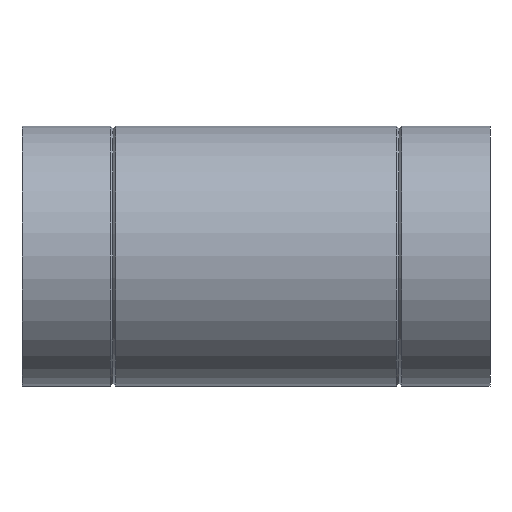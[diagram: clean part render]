
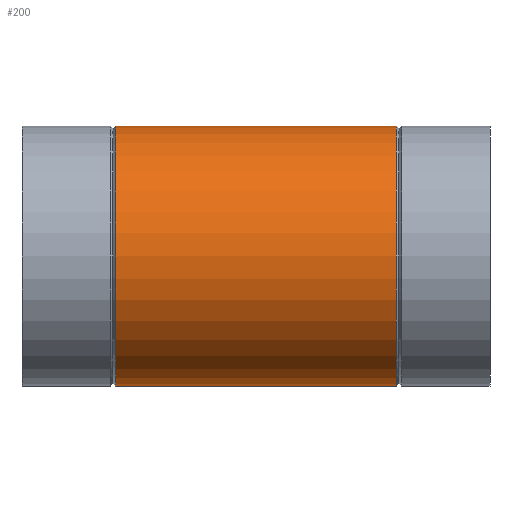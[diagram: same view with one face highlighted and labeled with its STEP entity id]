
A CAD part, left-side view. The second image highlights one B-rep face of the part: STEP entity #200.
In plain terms, the highlighted cylindrical face has radius 100 mm (diameter 200 mm), a full revolution.
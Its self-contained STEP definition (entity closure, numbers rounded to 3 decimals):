
#15=B_SPLINE_CURVE_WITH_KNOTS($,3,(#325,#326,#327,#328,#329,#330,#331,#332,
#333,#334,#335,#336,#337,#338,#339,#340,#341,#342,#343,#344,#345,#346,#347,
#348,#349,#350,#351,#352,#353,#354,#355,#356,#357,#358,#359,#360,#361,#362,
#363,#364,#365,#366,#367,#368,#369,#370,#371,#372,#373,#374,#375,#376,#377,
#378,#379,#380,#381,#382,#383,#384,#385,#386,#387,#388,#389,#390),
 .UNSPECIFIED.,.T.,.F.,(4,2,2,2,2,2,2,2,2,2,2,2,2,2,2,2,2,2,2,2,2,2,2,2,
2,2,2,2,2,2,2,2,4),(0.,1.072,2.143,3.215,
4.286,5.347,6.407,7.468,8.528,
9.589,10.649,11.71,12.77,13.842,
14.913,15.985,17.056,18.115,19.174,
20.232,21.291,22.35,23.41,24.47,
25.529,26.589,27.649,28.708,29.768,
30.827,31.885,32.944,34.002),
 .UNSPECIFIED.);
#17=CYLINDRICAL_SURFACE($,#222,100.);
#26=FACE_BOUND($,#63,.T.);
#27=FACE_BOUND($,#64,.T.);
#48=FACE_OUTER_BOUND($,#62,.T.);
#62=EDGE_LOOP($,(#145));
#63=EDGE_LOOP($,(#146));
#64=EDGE_LOOP($,(#147));
#94=CIRCLE($,#221,100.);
#95=CIRCLE($,#223,100.);
#109=VERTEX_POINT($,#319);
#110=VERTEX_POINT($,#322);
#111=VERTEX_POINT($,#324);
#126=EDGE_CURVE($,#109,#109,#94,.T.);
#127=EDGE_CURVE($,#110,#110,#95,.T.);
#128=EDGE_CURVE($,#111,#111,#15,.T.);
#145=ORIENTED_EDGE($,*,*,#127,.T.);
#146=ORIENTED_EDGE($,*,*,#128,.T.);
#147=ORIENTED_EDGE($,*,*,#126,.T.);
#200=ADVANCED_FACE($,(#48,#26,#27),#17,.T.);
#221=AXIS2_PLACEMENT_3D($,#320,#258,#259);
#222=AXIS2_PLACEMENT_3D($,#321,#260,#261);
#223=AXIS2_PLACEMENT_3D($,#323,#262,#263);
#258=DIRECTION('center_axis',(0.,-1.,0.));
#259=DIRECTION('ref_axis',(1.,0.,0.));
#260=DIRECTION('center_axis',(0.,1.,0.));
#261=DIRECTION('ref_axis',(1.,0.,0.));
#262=DIRECTION('center_axis',(0.,1.,0.));
#263=DIRECTION('ref_axis',(1.,0.,0.));
#319=CARTESIAN_POINT('',(100.,288.,0.));
#320=CARTESIAN_POINT('Origin',(0.,288.,0.));
#321=CARTESIAN_POINT('Origin',(0.,0.,0.));
#322=CARTESIAN_POINT('',(-100.,72.,0.));
#323=CARTESIAN_POINT('Origin',(0.,72.,0.));
#324=CARTESIAN_POINT('',(83.516,182.187,55.));
#325=CARTESIAN_POINT('Ctrl Pts',(83.516,182.187,55.));
#326=CARTESIAN_POINT('Ctrl Pts',(83.516,185.759,55.));
#327=CARTESIAN_POINT('Ctrl Pts',(83.752,189.416,54.647));
#328=CARTESIAN_POINT('Ctrl Pts',(84.676,196.634,53.205));
#329=CARTESIAN_POINT('Ctrl Pts',(85.362,200.195,52.116));
#330=CARTESIAN_POINT('Ctrl Pts',(87.031,206.986,49.278));
#331=CARTESIAN_POINT('Ctrl Pts',(88.013,210.224,47.527));
#332=CARTESIAN_POINT('Ctrl Pts',(90.067,216.205,43.509));
#333=CARTESIAN_POINT('Ctrl Pts',(91.137,218.947,41.241));
#334=CARTESIAN_POINT('Ctrl Pts',(93.159,223.785,36.443));
#335=CARTESIAN_POINT('Ctrl Pts',(94.187,226.061,33.742));
#336=CARTESIAN_POINT('Ctrl Pts',(96.1,230.106,27.83));
#337=CARTESIAN_POINT('Ctrl Pts',(96.984,231.875,24.619));
#338=CARTESIAN_POINT('Ctrl Pts',(98.45,234.739,17.875));
#339=CARTESIAN_POINT('Ctrl Pts',(99.033,235.836,14.335));
#340=CARTESIAN_POINT('Ctrl Pts',(99.808,237.286,7.165));
#341=CARTESIAN_POINT('Ctrl Pts',(100.,237.637,3.535));
#342=CARTESIAN_POINT('Ctrl Pts',(100.,237.637,-3.535));
#343=CARTESIAN_POINT('Ctrl Pts',(99.808,237.286,-7.165));
#344=CARTESIAN_POINT('Ctrl Pts',(99.033,235.836,-14.335));
#345=CARTESIAN_POINT('Ctrl Pts',(98.45,234.739,-17.875));
#346=CARTESIAN_POINT('Ctrl Pts',(96.984,231.875,-24.619));
#347=CARTESIAN_POINT('Ctrl Pts',(96.1,230.106,-27.83));
#348=CARTESIAN_POINT('Ctrl Pts',(94.187,226.061,-33.742));
#349=CARTESIAN_POINT('Ctrl Pts',(93.159,223.785,-36.443));
#350=CARTESIAN_POINT('Ctrl Pts',(91.137,218.947,-41.241));
#351=CARTESIAN_POINT('Ctrl Pts',(90.067,216.205,-43.509));
#352=CARTESIAN_POINT('Ctrl Pts',(88.013,210.224,-47.527));
#353=CARTESIAN_POINT('Ctrl Pts',(87.031,206.986,-49.278));
#354=CARTESIAN_POINT('Ctrl Pts',(85.362,200.195,-52.116));
#355=CARTESIAN_POINT('Ctrl Pts',(84.676,196.634,-53.205));
#356=CARTESIAN_POINT('Ctrl Pts',(83.752,189.416,-54.647));
#357=CARTESIAN_POINT('Ctrl Pts',(83.516,185.759,-55.));
#358=CARTESIAN_POINT('Ctrl Pts',(83.516,178.658,-55.));
#359=CARTESIAN_POINT('Ctrl Pts',(83.747,175.043,-54.655));
#360=CARTESIAN_POINT('Ctrl Pts',(84.658,167.912,-53.234));
#361=CARTESIAN_POINT('Ctrl Pts',(85.336,164.397,-52.157));
#362=CARTESIAN_POINT('Ctrl Pts',(86.994,157.7,-49.342));
#363=CARTESIAN_POINT('Ctrl Pts',(87.972,154.512,-47.602));
#364=CARTESIAN_POINT('Ctrl Pts',(90.021,148.634,-43.604));
#365=CARTESIAN_POINT('Ctrl Pts',(91.089,145.944,-41.346));
#366=CARTESIAN_POINT('Ctrl Pts',(93.119,141.181,-36.545));
#367=CARTESIAN_POINT('Ctrl Pts',(94.156,138.935,-33.828));
#368=CARTESIAN_POINT('Ctrl Pts',(96.084,134.957,-27.885));
#369=CARTESIAN_POINT('Ctrl Pts',(96.974,133.223,-24.659));
#370=CARTESIAN_POINT('Ctrl Pts',(98.447,130.422,-17.891));
#371=CARTESIAN_POINT('Ctrl Pts',(99.032,129.352,-14.343));
#372=CARTESIAN_POINT('Ctrl Pts',(99.808,127.941,-7.163));
#373=CARTESIAN_POINT('Ctrl Pts',(100.,127.6,-3.532));
#374=CARTESIAN_POINT('Ctrl Pts',(100.,127.6,3.532));
#375=CARTESIAN_POINT('Ctrl Pts',(99.808,127.941,7.163));
#376=CARTESIAN_POINT('Ctrl Pts',(99.032,129.352,14.343));
#377=CARTESIAN_POINT('Ctrl Pts',(98.447,130.422,17.891));
#378=CARTESIAN_POINT('Ctrl Pts',(96.974,133.223,24.659));
#379=CARTESIAN_POINT('Ctrl Pts',(96.084,134.957,27.885));
#380=CARTESIAN_POINT('Ctrl Pts',(94.156,138.935,33.828));
#381=CARTESIAN_POINT('Ctrl Pts',(93.119,141.181,36.545));
#382=CARTESIAN_POINT('Ctrl Pts',(91.089,145.944,41.346));
#383=CARTESIAN_POINT('Ctrl Pts',(90.021,148.634,43.604));
#384=CARTESIAN_POINT('Ctrl Pts',(87.972,154.512,47.602));
#385=CARTESIAN_POINT('Ctrl Pts',(86.994,157.7,49.342));
#386=CARTESIAN_POINT('Ctrl Pts',(85.336,164.397,52.157));
#387=CARTESIAN_POINT('Ctrl Pts',(84.658,167.912,53.234));
#388=CARTESIAN_POINT('Ctrl Pts',(83.747,175.043,54.655));
#389=CARTESIAN_POINT('Ctrl Pts',(83.516,178.658,55.));
#390=CARTESIAN_POINT('Ctrl Pts',(83.516,182.187,55.));
